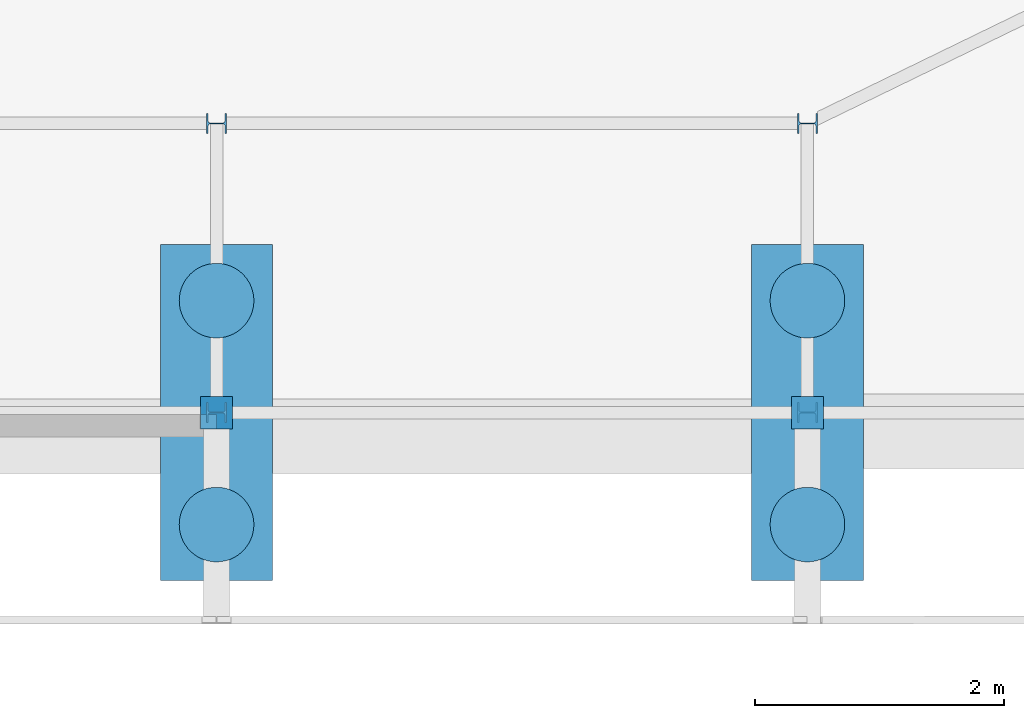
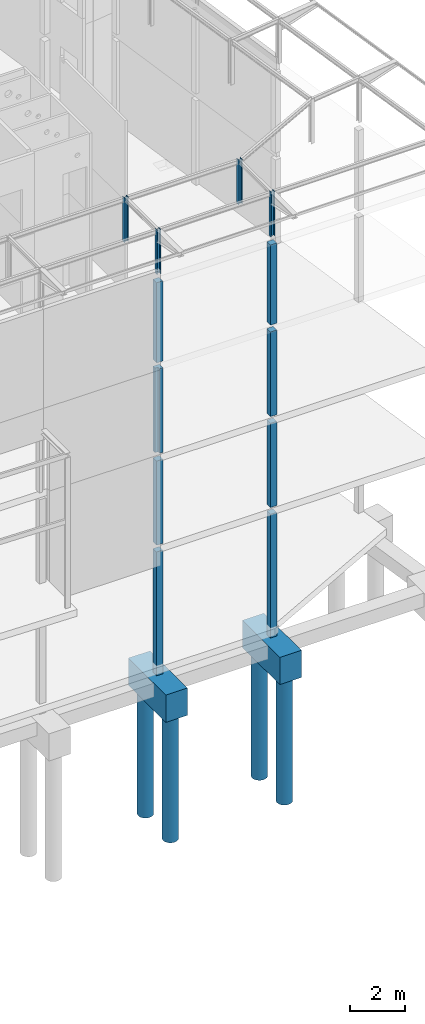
# One storey, part 44 of 82: 18 columns.
"""IFC2X3 building model written with IfcOpenShell, lengths in millimetres."""

from ifc_helpers import new_model, si_unit, frame, frame_2d, origin_with_axes, place, context, subcontext, project, spatial, polyline, rectangle, circle, i_section, outline, extrude, boolean, material, type_object, element, save


model = new_model("IFC2X3")

# Units and contexts
model_context = context("Model", 3, precision=1e-05, world=origin_with_axes())
body_context = subcontext(model_context, "Body", "Model", "MODEL_VIEW")
ifc_project = project(units=[si_unit("LENGTHUNIT", "METRE", prefix="MILLI"), si_unit("AREAUNIT", "SQUARE_METRE"), si_unit("VOLUMEUNIT", "CUBIC_METRE"), si_unit("MASSUNIT", "GRAM", prefix="KILO"), si_unit("TIMEUNIT", "SECOND"), si_unit("PLANEANGLEUNIT", "RADIAN"), si_unit("SOLIDANGLEUNIT", "STERADIAN"), si_unit("THERMODYNAMICTEMPERATUREUNIT", "DEGREE_CELSIUS"), si_unit("LUMINOUSINTENSITYUNIT", "LUMEN")], contexts=[model_context])

# Site, building, storey
site_placement = place(None, origin_with_axes())
site = spatial("IfcSite", under=ifc_project, at=site_placement, Name="Undefined", CompositionType="ELEMENT")
building_placement = place(site_placement, origin_with_axes())
building = spatial("IfcBuilding", under=site, at=building_placement, Name="Undefined", CompositionType="ELEMENT")
storey_placement = place(building_placement, origin_with_axes())
storey = spatial("IfcBuildingStorey", under=building, at=storey_placement, Name="Undefined", CompositionType="ELEMENT", Elevation=0.0)

# Columns
ifc_material_1 = material(Name="CONCRETE/C25/30")
column_type_1 = type_object("IfcColumnType", Name="260*260", PredefinedType="NOTDEFINED")
for number, where, z_axis, x_axis, name in (
    (1, (56849.9999999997, -6.14861335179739e-08, 13330.0), (0.0, 0.0, 1.0), (1.0, 0.0, 0.0), "POTEAU"),
    (2, (61599.9984741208, -2.67719235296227e-05, 13330.0), (0.0, 0.0, 1.0), (1.0, 0.0, 0.0), "POTEAU"),
):
    element("IfcColumn", number, at=place(storey_placement, frame(where, z_axis=z_axis, x_axis=x_axis)), inside=storey, type_object=column_type_1, material=ifc_material_1, Name=name, ObjectType="260*260", context=body_context, shape_type="SweptSolid", body=[
        extrude(rectangle(XDim=260.0, YDim=260.0, at=frame_2d((5.17284206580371e-08, 4.49290382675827e-10), x_axis=(1.0, 0.0))), frame((0.0, 0.0, 3529.99999999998), z_axis=(0.0, -6.50000002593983e-08, -0.999999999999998), x_axis=(-1.0, 0.0, 0.0)), (0.0, 0.0, 1.0), 3530.0),
    ])
column_1_placement = place(storey_placement, frame((56849.9999999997, -6.14865882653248e-08, 9305.0), z_axis=(0.0, 0.0, 1.0), x_axis=(1.0, 0.0, 0.0)))
solid = boolean("DIFFERENCE", extrude(rectangle(XDim=4874.99998420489, YDim=180.0, at=frame_2d((0.0, 2437.49999210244), x_axis=(0.0, -1.0))), frame((-1.48829785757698e-05, -104.999999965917, 0.0), z_axis=(0.0, 0.0, 1.0), x_axis=(0.0, 1.0, 0.0)), (0.0, 0.0, 1.0), 3725.0), extrude(outline(polyline([(5.17284206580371e-08, 4.49290382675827e-10), (249.434494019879, 4.18367562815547e-10), (249.418747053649, 14305.0000000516), (-0.0157491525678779, 14305.000000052), (5.17284206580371e-08, 4.49290382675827e-10)])), frame((-4874.99999908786, -192.499999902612, 2345.0), z_axis=(-2.77555756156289e-17, -1.0, 0.0), x_axis=(0.999999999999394, 0.0, -1.10100000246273e-06)), (0.0, 0.0, 1.0), 185.0))
element("IfcColumn", 3, at=column_1_placement, inside=storey, type_object=column_type_1, material=ifc_material_1, Name="POTEAU", ObjectType="260*260", context=body_context, shape_type="CSG", body=[
    boolean("DIFFERENCE", extrude(rectangle(XDim=260.0, YDim=260.0, at=frame_2d((5.17284206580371e-08, 4.49290382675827e-10), x_axis=(1.0, 0.0))), frame((0.0, 0.0, 3725.0), z_axis=(0.0, -6.50000002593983e-08, -0.999999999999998), x_axis=(-1.0, 0.0, 0.0)), (0.0, 0.0, 1.0), 3725.0), solid),
])
column_2_placement = place(storey_placement, frame((61599.9984741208, -2.677192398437e-05, 9305.0), z_axis=(0.0, 0.0, 1.0), x_axis=(1.0, 0.0, 0.0)))
element("IfcColumn", 4, at=column_2_placement, inside=storey, type_object=column_type_1, material=ifc_material_1, Name="POTEAU", ObjectType="260*260", context=body_context, shape_type="SweptSolid", body=[
    extrude(rectangle(XDim=260.0, YDim=260.0, at=frame_2d((5.17284206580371e-08, 4.49290382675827e-10), x_axis=(1.0, 0.0))), frame((0.0, 0.0, 3725.0), z_axis=(0.0, -6.50000002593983e-08, -0.999999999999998), x_axis=(-1.0, 0.0, 0.0)), (0.0, 0.0, 1.0), 3725.0),
])
column_3_placement = place(storey_placement, frame((56850.0000000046, -6.2463385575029e-08, 5300.0), z_axis=(0.0, 0.0, 1.0), x_axis=(1.0, 0.0, 0.0)))
element("IfcColumn", 5, at=column_3_placement, inside=storey, type_object=column_type_1, material=ifc_material_1, Name="POTEAU", ObjectType="260*260", context=body_context, shape_type="SweptSolid", body=[
    extrude(rectangle(XDim=260.0, YDim=260.0, at=frame_2d((5.17284206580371e-08, 4.49290382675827e-10), x_axis=(1.0, 0.0))), frame((0.0, 0.0, 3705.00000000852), z_axis=(0.0, -6.50000002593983e-08, -0.999999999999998), x_axis=(-0.999999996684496, 8.14309999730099e-05, 0.0)), (0.0, 0.0, 1.0), 3705.0),
])
column_4_placement = place(storey_placement, frame((61599.9984741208, -2.67719235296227e-05, 5300.0), z_axis=(0.0, 0.0, 1.0), x_axis=(1.0, 0.0, 0.0)))
element("IfcColumn", 6, at=column_4_placement, inside=storey, type_object=column_type_1, material=ifc_material_1, Name="POTEAU", ObjectType="260*260", context=body_context, shape_type="SweptSolid", body=[
    extrude(rectangle(XDim=260.0, YDim=260.0, at=frame_2d((5.17284206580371e-08, 4.49290382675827e-10), x_axis=(1.0, 0.0))), frame((0.0, 0.0, 3705.00000000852), z_axis=(0.0, -6.50000002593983e-08, -0.999999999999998), x_axis=(-1.0, 0.0, 0.0)), (0.0, 0.0, 1.0), 3705.0),
])
column_5_placement = place(storey_placement, frame((56849.9999999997, -6.14861335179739e-08, -450.0), z_axis=(0.0, 0.0, 1.0), x_axis=(1.0, 0.0, 0.0)))
element("IfcColumn", 7, at=column_5_placement, inside=storey, type_object=column_type_1, material=ifc_material_1, Name="POTEAU", ObjectType="260*260", context=body_context, shape_type="SweptSolid", body=[
    extrude(rectangle(XDim=260.0, YDim=260.0, at=frame_2d((5.17284206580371e-08, 4.49290382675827e-10), x_axis=(1.0, 0.0))), frame((0.0, 0.0, 5450.00000000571), z_axis=(0.0, -6.50000002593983e-08, -0.999999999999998), x_axis=(-1.0, 0.0, 0.0)), (0.0, 0.0, 1.0), 5450.0),
])
column_6_placement = place(storey_placement, frame((61599.9984741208, -2.67719235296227e-05, -449.99951171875), z_axis=(0.0, 0.0, 1.0), x_axis=(1.0, 0.0, 0.0)))
element("IfcColumn", 8, at=column_6_placement, inside=storey, type_object=column_type_1, material=ifc_material_1, Name="POTEAU", ObjectType="260*260", context=body_context, shape_type="SweptSolid", body=[
    extrude(rectangle(XDim=260.0, YDim=260.0, at=frame_2d((5.17284206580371e-08, 4.49290382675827e-10), x_axis=(1.0, 0.0))), frame((0.0, 0.0, 5449.9995117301), z_axis=(0.0, -6.50000002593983e-08, -0.999999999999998), x_axis=(-1.0, 0.0, 0.0)), (0.0, 0.0, 1.0), 5450.0),
])
ifc_material_2 = material(Name="STEEL/S275JR")
column_type_2 = type_object("IfcColumnType", Name="HEB160", PredefinedType="NOTDEFINED")
for number, where, z_axis, x_axis, name in (
    (9, (61600.0000000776, -1.07394697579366e-07, 17160.0), (0.0, 0.0, 1.0), (1.0, 0.0, 0.0), "POTEAU"),
    (10, (61600.0000011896, 2324.99999959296, 17160.0), (0.0, 0.0, 1.0), (1.0, 0.0, 0.0), "POTEAU"),
    (11, (56850.0000000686, -9.98345228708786e-08, 17160.0), (0.0, 0.0, 1.0), (1.0, 0.0, 0.0), "POTEAU"),
    (12, (56850.0000011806, 2324.99999960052, 17160.0), (0.0, 0.0, 1.0), (1.0, 0.0, 0.0), "POTEAU"),
):
    element("IfcColumn", number, at=place(storey_placement, frame(where, z_axis=z_axis, x_axis=x_axis)), inside=storey, type_object=column_type_2, material=ifc_material_2, Name=name, ObjectType="HEB160", context=body_context, shape_type="SweptSolid", body=[
        extrude(i_section(OverallWidth=160.0, OverallDepth=160.0, WebThickness=8.0, FlangeThickness=13.0, FilletRadius=15.0, at=frame_2d((5.17284206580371e-08, 4.49290382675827e-10), x_axis=(1.0, 0.0))), frame((0.0, 0.0, 1965.0), z_axis=(0.0, -6.50000002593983e-08, -0.999999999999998), x_axis=(-2.77555756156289e-17, -1.0, 0.0)), (0.0, 0.0, 1.0), 1965.0),
    ])
ifc_material_3 = material(Name="CONCRETE/C30/37")
column_type_3 = type_object("IfcColumnType", Name="2700*900", PredefinedType="NOTDEFINED")
for number, where, z_axis, x_axis, name in (
    (13, (61599.9999999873, -7.91348782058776e-08, -1650.0), (0.0, 0.0, 1.0), (1.0, 0.0, 0.0), "SEMELLE"),
    (14, (56850.0000000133, -2.16537245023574e-07, -1650.0), (0.0, 0.0, 1.0), (1.0, 0.0, 0.0), "SEMELLE"),
):
    element("IfcColumn", number, at=place(storey_placement, frame(where, z_axis=z_axis, x_axis=x_axis)), inside=storey, type_object=column_type_3, material=ifc_material_3, Name=name, ObjectType="2700*900", context=body_context, shape_type="SweptSolid", body=[
        extrude(rectangle(XDim=900.0, YDim=2700.0, at=frame_2d((5.17284206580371e-08, 4.49290382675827e-10), x_axis=(1.0, 0.0))), frame((0.0, 0.0, 1200.0), z_axis=(0.0, -6.50000002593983e-08, -0.999999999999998), x_axis=(-1.0, 0.0, 0.0)), (0.0, 0.0, 1.0), 1200.0),
    ])
column_type_4 = type_object("IfcColumnType", Name="D600", PredefinedType="NOTDEFINED")
for number, where, z_axis, x_axis in (
    (15, (61599.9999999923, -900.000000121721, -7175.0), (0.0, 0.0, 1.0), (1.0, 0.0, 0.0)),
    (16, (61599.9999999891, 899.999999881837, -7175.0), (0.0, 0.0, 1.0), (1.0, 0.0, 0.0)),
    (17, (56849.9999999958, -900.000000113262, -7175.0), (0.0, 0.0, 1.0), (1.0, 0.0, 0.0)),
    (18, (56849.9999999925, 899.999999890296, -7175.0), (0.0, 0.0, 1.0), (1.0, 0.0, 0.0)),
):
    element("IfcColumn", number, at=place(storey_placement, frame(where, z_axis=z_axis, x_axis=x_axis)), inside=storey, type_object=column_type_4, material=ifc_material_1, Name="PIEU", ObjectType="D600", context=body_context, shape_type="SweptSolid", body=[
        extrude(circle(Radius=300.0, at=frame_2d((5.17284206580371e-08, 4.49290382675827e-10), x_axis=(1.0, 0.0))), frame((0.0, 0.0, 5750.0), z_axis=(0.0, -6.50000002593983e-08, -0.999999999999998), x_axis=(-1.0, 0.0, 0.0)), (0.0, 0.0, 1.0), 5750.0),
    ])

save(model, "model.ifc")
